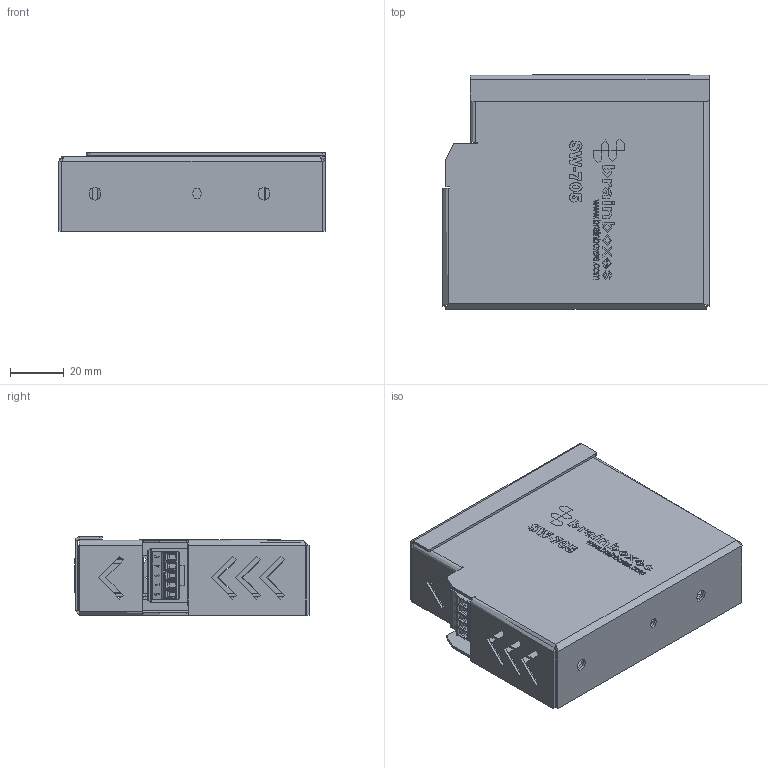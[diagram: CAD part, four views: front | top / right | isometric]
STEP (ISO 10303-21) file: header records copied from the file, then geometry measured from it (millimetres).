
FILE_DESCRIPTION(('FreeCAD Model'),'2;1');
FILE_NAME('Open CASCADE Shape Model','2023-03-16T10:22:13',('Author'),( ''),'Open CASCADE STEP processor 7.6','FreeCAD','Unknown');
FILE_SCHEMA(('AUTOMOTIVE_DESIGN { 1 0 10303 214 1 1 1 1 }'));
Products named in the file (1): For SW-705 Colour
Bounding box: 99.3 x 87.23 x 29.4 mm (x, y, z)
Volume: 54937.9 mm3; surface area: 113843.5 mm2
Topology: 133 solids, 149 shells, 9590 faces, 26790 edges, 17453 vertices
Faces by surface type: plane 7495, cylinder 1296, bspline 588, extrusion 106, torus 57, sphere 24, cone 24
Full cylindrical faces by diameter (mm): 3.81 x1
Entity records: 381240 total; most frequent: CARTESIAN_POINT 67158, ORIENTED_EDGE 53538, DIRECTION 47032, EDGE_CURVE 26769, VECTOR 22456, LINE 22350, VERTEX_POINT 17453, AXIS2_PLACEMENT_3D 12288
